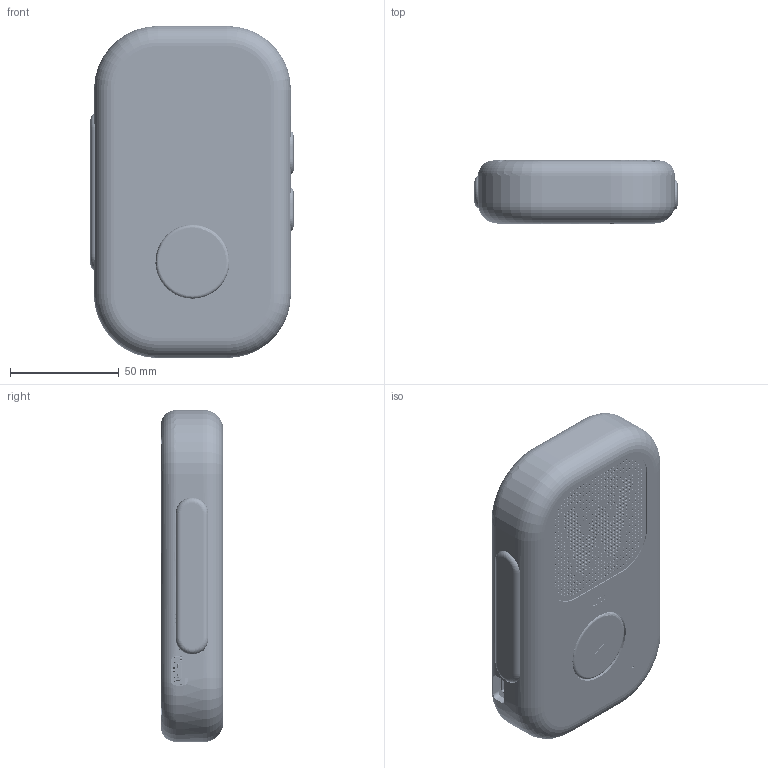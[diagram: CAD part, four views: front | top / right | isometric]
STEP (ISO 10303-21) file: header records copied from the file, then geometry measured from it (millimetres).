
FILE_DESCRIPTION(('Open CASCADE Model'),'2;1');
FILE_NAME('ASTRA 21.2 R5 rounded hand-feel 28.8mm - DFM prototype assembly - electrical integration pending','2026-09-04T19:55:55',('Author'),( 'Open CASCADE'),'Open CASCADE STEP processor 7.8','build123d', 'Unknown');
FILE_SCHEMA(('AUTOMOTIVE_DESIGN { 1 0 10303 214 1 1 1 1 }'));
Length unit declared in the file: millimetre
Products named in the file (1852): ASTRA 21.2 R5 rounded hand-feel 28.8mm - DFM prototype assembly - 
electrical integration pending; front_chassis_PA12; rear_service_cover_PA12; front_grip_skin_finegrain_cream; SOLID; rear_grip_skin_finegrain_cream_INSCRIBED; grille_W_perforated_0_8mm_charcoal; ptt_cap_orange_72mm; vol_plus_cap_sage; vol_minus_cap_sage; play_action_cap_cream; status_lens_clear_diffusing; carrier_front_switch_fr4_handwired; carrier_left_ptt_fr4_handwired; carrier_right_vol_fr4_handwired; carrier_led_fr4_handwired; mic_clamp_bracket_PA12; ptt_pad_silicone_1; ptt_pad_silicone_2; vol_plus_pad_silicone; vol_minus_pad_silicone; play_pad_silicone; pcb_clamp_pad_silicone_1_0to0_8_1; pcb_clamp_pad_silicone_1_0to0_8_2; pcb_clamp_pad_silicone_1_0to0_8_3; pcb_clamp_pad_silicone_1_0to0_8_4; battery_foam_pad_PORON_3_0to2_5_1; battery_foam_pad_PORON_3_0to2_5_2; battery_foam_pad_PORON_3_0to2_5_3; battery_tray_foam_0_8to0_5; mic_foam_strip_3_0to2_8_1; mic_foam_strip_3_0to2_8_2; mic_duct_foam_gasket_2_3to1_9; speaker_rim_foam_gasket_1_3to1_0; lte_backing_adhesive_0_2; grille_perimeter_PSA_0_10; rear_grip_PSA_panel_0_10; front_grip_PSA_patch_0_10_1; front_grip_PSA_patch_0_10_2; front_grip_PSA_patch_0_10_3 ...
Assembly tree (1957 placements, depth 6):
  ASTRA 21.2 R5 rounded hand-feel 28.8mm - DFM prototype assembly - 
electrical integration pending
    front_chassis_PA12
    rear_service_cover_PA12
    front_grip_skin_finegrain_cream
      SOLID
    rear_grip_skin_finegrain_cream_INSCRIBED
      SOLID
    grille_W_perforated_0_8mm_charcoal
      SOLID
    ptt_cap_orange_72mm
    vol_plus_cap_sage
    vol_minus_cap_sage
    play_action_cap_cream
    status_lens_clear_diffusing
    carrier_front_switch_fr4_handwired
      SOLID
    carrier_left_ptt_fr4_handwired
      SOLID
    carrier_right_vol_fr4_handwired
      SOLID
    carrier_led_fr4_handwired
      SOLID
    mic_clamp_bracket_PA12
      SOLID
    ptt_pad_silicone_1
      SOLID
    ptt_pad_silicone_2
      SOLID
    vol_plus_pad_silicone
      SOLID
    vol_minus_pad_silicone
      SOLID
    play_pad_silicone
      SOLID
    pcb_clamp_pad_silicone_1_0to0_8_1
      SOLID
    pcb_clamp_pad_silicone_1_0to0_8_2
      SOLID
    pcb_clamp_pad_silicone_1_0to0_8_3
      SOLID
    pcb_clamp_pad_silicone_1_0to0_8_4
      SOLID
    battery_foam_pad_PORON_3_0to2_5_1
      SOLID
    battery_foam_pad_PORON_3_0to2_5_2
      SOLID
    battery_foam_pad_PORON_3_0to2_5_3
      SOLID
    battery_tray_foam_0_8to0_5
      SOLID
    mic_foam_strip_3_0to2_8_1
      SOLID
    mic_foam_strip_3_0to2_8_2
      SOLID
    mic_duct_foam_gasket_2_3to1_9
      SOLID
    speaker_rim_foam_gasket_1_3to1_0
      SOLID
    lte_backing_adhesive_0_2
      SOLID
Bounding box: 93.2 x 28.8 x 152.4 mm (x, y, z)
Volume: 159969.7 mm3; surface area: 211063.2 mm2
Topology: 429 solids, 1796 shells, 29618 faces, 71503 edges, 44389 vertices
Faces by surface type: plane 21596, bspline 3844, cylinder 3524, extrusion 419, cone 114, torus 93, sphere 28
Full cylindrical faces by diameter (mm): 0.3 x61, 0.375 x1, 0.5 x1, 0.6 x4, 0.75 x4, 0.813 x5, 0.9 x460, 1 x16, 1.1 x85, 1.2 x2, 1.25 x73, 1.4 x111, 1.5 x7, 1.623 x56, 2 x14, 2.074 x56, 2.4 x10, 2.9 x14, 3 x2, 3.03 x14, 3.2 x28, 3.8 x14, 4.2 x4, 4.6 x4, 5 x4, 6 x1, 6.4 x10, 8 x1, 34.6 x1, 36 x1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
Entity records: 1852802 total; most frequent: CARTESIAN_POINT 630436, DIRECTION 204046, VECTOR 139604, LINE 139185, ORIENTED_EDGE 118603, PCURVE 118603, DEFINITIONAL_REPRESENTATION 118603, EDGE_CURVE 63896
